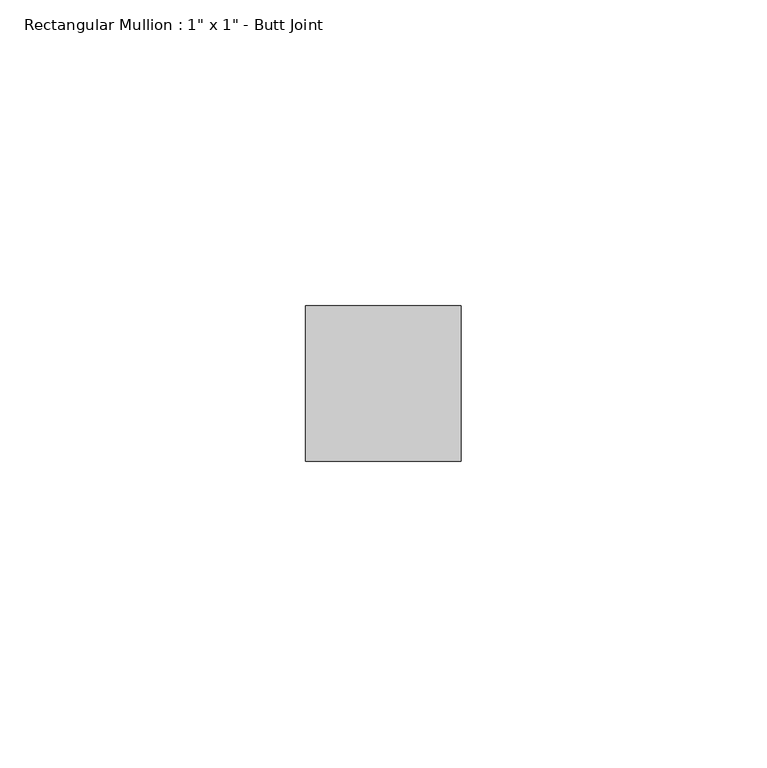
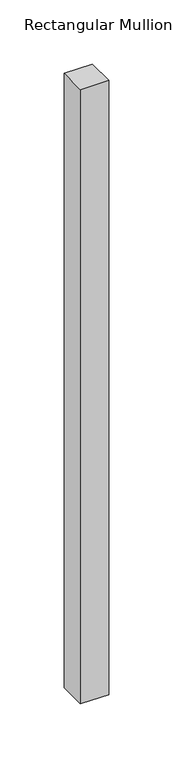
"""IFC4 building model written with IfcOpenShell, lengths in millimetres: member geometry."""

from ifc_helpers import new_model, si_unit, frame, origin, place, context, project, spatial, polyline, outline, extrude, source, transform, mapped, element, save


def member_d251e4a5(model_context):
    return source(origin(), model_context, "Body", "SweptSolid", [
        extrude(outline(polyline([(12.7, 12.7), (12.7, -12.7), (-12.7, -12.7), (-12.7, 12.7), (12.7, 12.7)])), frame((0.0, 0.0, -584.8809657), z_axis=(0.0, 0.0, 1.0), x_axis=(1.0, 0.0, 0.0)), (0.0, 0.0, 1.0), 584.8809657),
    ])


if __name__ == "__main__":
    model = new_model("IFC4")
    model_context = context("Model", 3, world=origin())
    ifc_project = project(units=[si_unit("LENGTHUNIT", "METRE", prefix="MILLI")], contexts=[model_context])
    site = spatial("IfcSite", under=ifc_project)
    building = spatial("IfcBuilding", under=site)
    placement = place(None, origin())
    member_shape = member_d251e4a5(model_context)
    element("IfcMember", 1, ObjectType="Rectangular Mullion : 1\" x 1\" - Butt Joint", at=placement, inside=building, context=model_context, shape_type="MappedRepresentation", body=[
        mapped(member_shape, transform((0.0, 0.0, 0.0), x_axis=(1.0, 0.0, 0.0), y_axis=(0.0, 1.0, 0.0), z_axis=(0.0, 0.0, 1.0))),
    ])
    save(model, "model.ifc")
